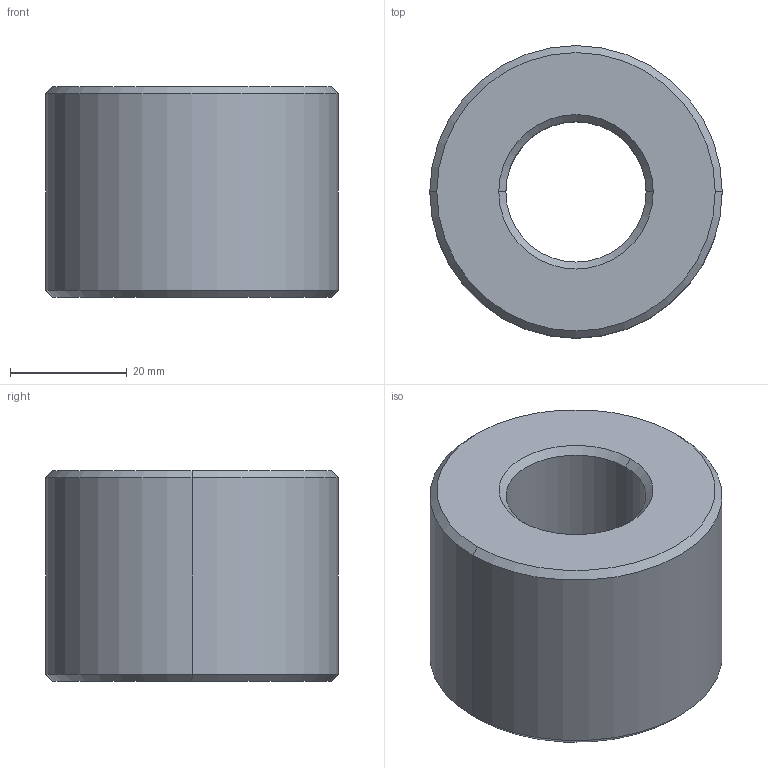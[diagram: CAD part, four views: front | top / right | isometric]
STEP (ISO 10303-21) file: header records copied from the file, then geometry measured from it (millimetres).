
FILE_DESCRIPTION (( 'STEP AP203' ), '1' );
FILE_NAME ('L1339.R24-05.step', '2024-10-24T14:10:14', ( '' ), ( '' ), 'SwSTEP 2.0', 'SolidWorks 2019', '' );
FILE_SCHEMA (( 'CONFIG_CONTROL_DESIGN' ));
Length unit declared in the file: millimetre
Products named in the file (1): L1339.R24-05
Bounding box: 50 x 50 x 36 mm (x, y, z)
Volume: 54065.1 mm3; surface area: 11064.6 mm2
Topology: 1 solids, 1 shells, 14 faces, 28 edges, 16 vertices
Faces by surface type: cone 8, cylinder 4, plane 2
Entity records: 445 total; most frequent: DIRECTION 74, CARTESIAN_POINT 59, ORIENTED_EDGE 56, AXIS2_PLACEMENT_3D 31, EDGE_CURVE 28, CIRCLE 16, EDGE_LOOP 16, VERTEX_POINT 16
